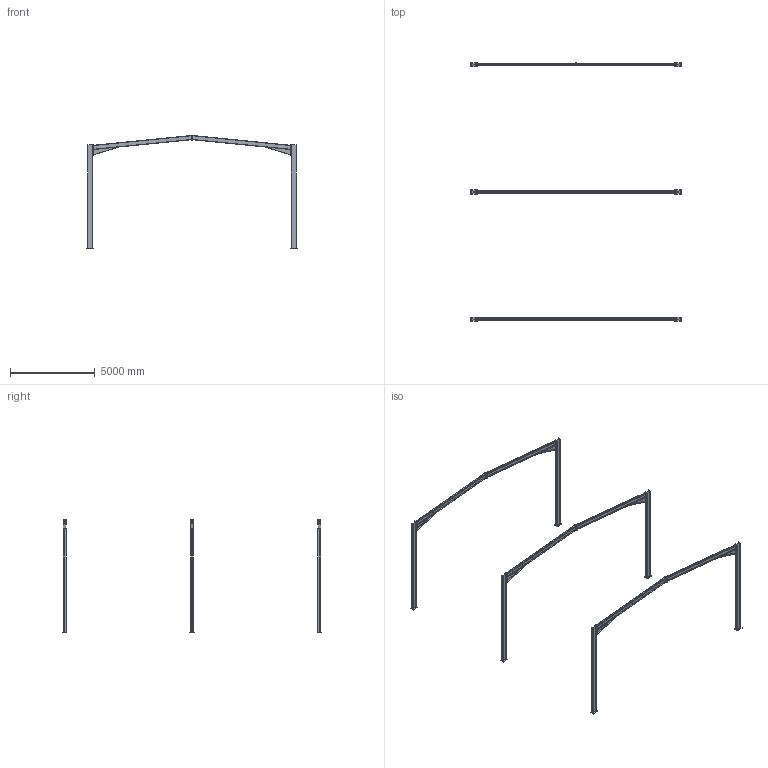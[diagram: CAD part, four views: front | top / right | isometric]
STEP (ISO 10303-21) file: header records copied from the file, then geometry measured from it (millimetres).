
FILE_DESCRIPTION(('Open CASCADE Model'),'2;1');
FILE_NAME('job_01a17b41b4a27036a391df8d5c6d0d19.stp', '2000-01-01T00:00:00',(''),(''),'Open CASCADE STEP processor 8.0', 'Staxli worker','');
FILE_SCHEMA(('AP242_MANAGED_MODEL_BASED_3D_ENGINEERING_MIM_LF {1 0 10303 442 1 1 4 }' ));
Length unit declared in the file: millimetre
Products named in the file (25): job_01a17b41b4a27036a391df8d5c6d0d19; m1003; m1004; p101; p102; p103; p104; p105
Assembly tree (42 placements, depth 2):
  job_01a17b41b4a27036a391df8d5c6d0d19
    m1003
    m1003
    m1003
    m1003
    m1003
    m1003
    m1004  x6
    p101  x2
    p102
    p103
    p104  x6
    p105  x6
    p101  x2
    p102
    p103
    p101  x2
    p102
    p103
    p102
    p103
    p102
    p103
    p102
    p103
Bounding box: 12400 x 15250 x 6706.43 mm (x, y, z)
Volume: 395318678.1 mm3; surface area: 92673537.9 mm2
Topology: 42 solids, 42 shells, 558 faces, 1422 edges, 948 vertices
Faces by surface type: plane 342, cylinder 216
Full cylindrical faces by diameter (mm): 22 x48, 26 x96, 30 x24
Entity records: 25916 total; most frequent: CARTESIAN_POINT 5507, DIRECTION 3787, LINE 2167, VECTOR 2167, ORIENTED_EDGE 1938, PCURVE 1938, DEFINITIONAL_REPRESENTATION 1938, EDGE_CURVE 969
